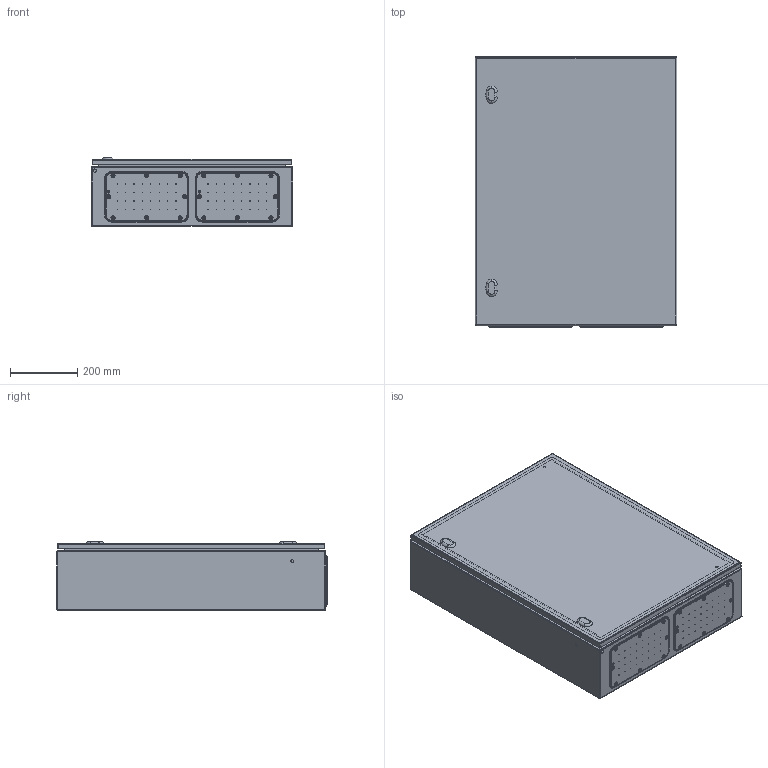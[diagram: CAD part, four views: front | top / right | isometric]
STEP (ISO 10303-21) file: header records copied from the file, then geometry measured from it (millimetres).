
FILE_DESCRIPTION (( 'STEP AP203' ), '1' );
FILE_NAME ('0600x0800x0200 dx.step', '2021-09-07T06:41:44', ( '' ), ( '' ), 'SwSTEP 2.0', 'SolidWorks 2021', '' );
FILE_SCHEMA (( 'CONFIG_CONTROL_DESIGN' ));
Length unit declared in the file: millimetre
Products named in the file (7): AR_ECOR_Piastra_17; AR_ECOR_montaggio_porta_singola_0600x0800; AR_ECOR_flangia IC_03; AR_ECOR_chiusura_std_STD; AR_ECOR_involucro_0600x0800x0200; AR_ECOR_porta_singola_0600x0800; 0600x0800x0200 dx
Assembly tree (8 placements, depth 3):
  0600x0800x0200 dx
    AR_ECOR_involucro_0600x0800x0200
    AR_ECOR_montaggio_porta_singola_0600x0800
      AR_ECOR_porta_singola_0600x0800
      AR_ECOR_chiusura_std_STD  x2
    AR_ECOR_flangia IC_03  x2
    AR_ECOR_Piastra_17
Bounding box: 600 x 804 x 205 mm (x, y, z)
Volume: 3565537.3 mm3; surface area: 4211017.6 mm2
Topology: 7 solids, 7 shells, 1067 faces, 2629 edges, 1654 vertices
Faces by surface type: cylinder 497, plane 316, cone 108, torus 78, bspline 52, sphere 16
Entity records: 25503 total; most frequent: CARTESIAN_POINT 5194, DIRECTION 4329, ORIENTED_EDGE 3900, EDGE_CURVE 1950, AXIS2_PLACEMENT_3D 1706, VERTEX_POINT 1236, EDGE_LOOP 1038, CIRCLE 937
